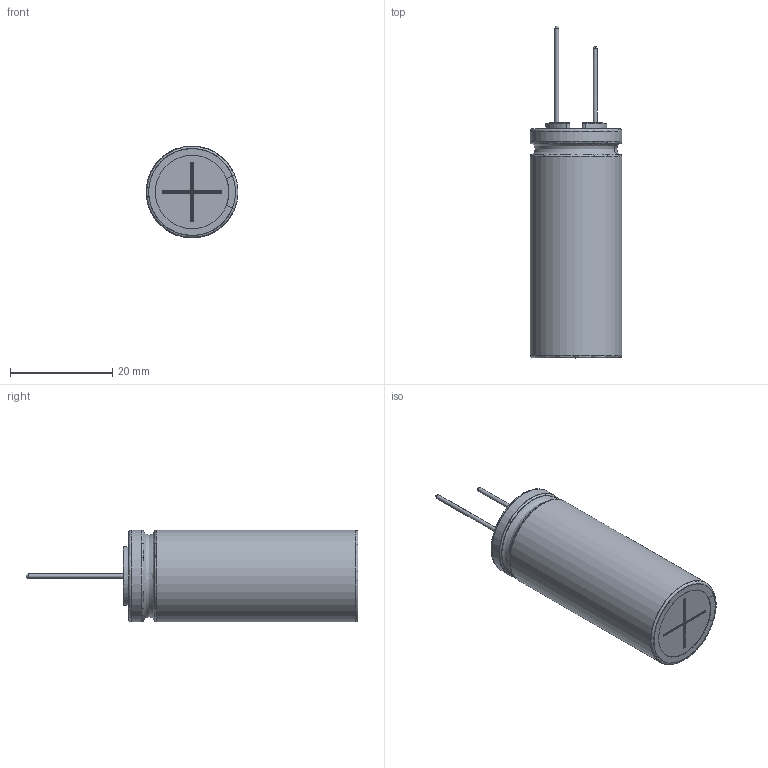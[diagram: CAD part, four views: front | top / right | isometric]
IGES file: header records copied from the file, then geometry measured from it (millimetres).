
Start section: JAMA-IS VERSION  1.0
Bounding box: 17.97 x 65 x 18 mm (x, y, z)
Surface area: 8634.5 mm2 (no closed solid volume)
Topology: 0 solids, 0 shells, 132 faces, 1531 edges, 1512 vertices
Faces by surface type: bspline 132
